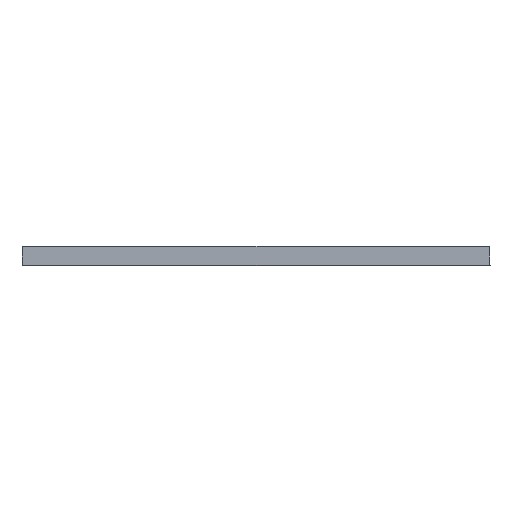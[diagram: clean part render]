
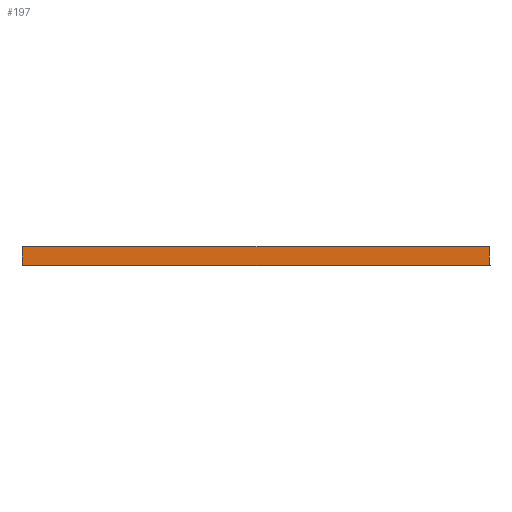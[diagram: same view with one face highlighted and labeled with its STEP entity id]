
A CAD part, front view. The second image highlights one B-rep face of the part: STEP entity #197.
In plain terms, the highlighted planar face has unit normal (0, -1, 0.009).
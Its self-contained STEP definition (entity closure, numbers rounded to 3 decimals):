
#69=PLANE('',#892);
#90=LINE('',#3033,#114);
#91=LINE('',#3036,#115);
#92=LINE('',#3038,#116);
#93=LINE('',#3040,#117);
#114=VECTOR('',#987,1.);
#115=VECTOR('',#988,1.);
#116=VECTOR('',#989,1.);
#117=VECTOR('',#990,1.);
#197=ADVANCED_FACE('',(#266),#69,.T.);
#266=FACE_OUTER_BOUND('',#326,.T.);
#326=EDGE_LOOP('',(#451,#452,#453,#454));
#451=ORIENTED_EDGE('',*,*,#752,.T.);
#452=ORIENTED_EDGE('',*,*,#753,.T.);
#453=ORIENTED_EDGE('',*,*,#754,.T.);
#454=ORIENTED_EDGE('',*,*,#755,.T.);
#666=VERTEX_POINT('',#3034);
#667=VERTEX_POINT('',#3035);
#668=VERTEX_POINT('',#3037);
#669=VERTEX_POINT('',#3039);
#752=EDGE_CURVE('',#666,#667,#90,.T.);
#753=EDGE_CURVE('',#667,#668,#91,.T.);
#754=EDGE_CURVE('',#668,#669,#92,.T.);
#755=EDGE_CURVE('',#669,#666,#93,.T.);
#892=AXIS2_PLACEMENT_3D('',#3041,#991,#992);
#987=DIRECTION('',(-0.009,0.009,1.));
#988=DIRECTION('',(-1.,0.,0.));
#989=DIRECTION('',(-0.009,-0.009,-1.));
#990=DIRECTION('',(1.,0.,0.));
#991=DIRECTION('',(0.,-1.,0.009));
#992=DIRECTION('',(0.,-0.009,-1.));
#3033=CARTESIAN_POINT('',(798.939,-699.939,3.972));
#3034=CARTESIAN_POINT('',(798.991,-699.991,-1.991));
#3035=CARTESIAN_POINT('',(798.721,-699.721,29.009));
#3036=CARTESIAN_POINT('',(0.,-699.721,29.009));
#3037=CARTESIAN_POINT('',(1.279,-699.721,29.009));
#3038=CARTESIAN_POINT('',(1.,-700.,-3.009));
#3039=CARTESIAN_POINT('',(1.009,-699.991,-1.991));
#3040=CARTESIAN_POINT('',(799.,-699.991,-1.991));
#3041=CARTESIAN_POINT('',(0.,-700.,-3.));
